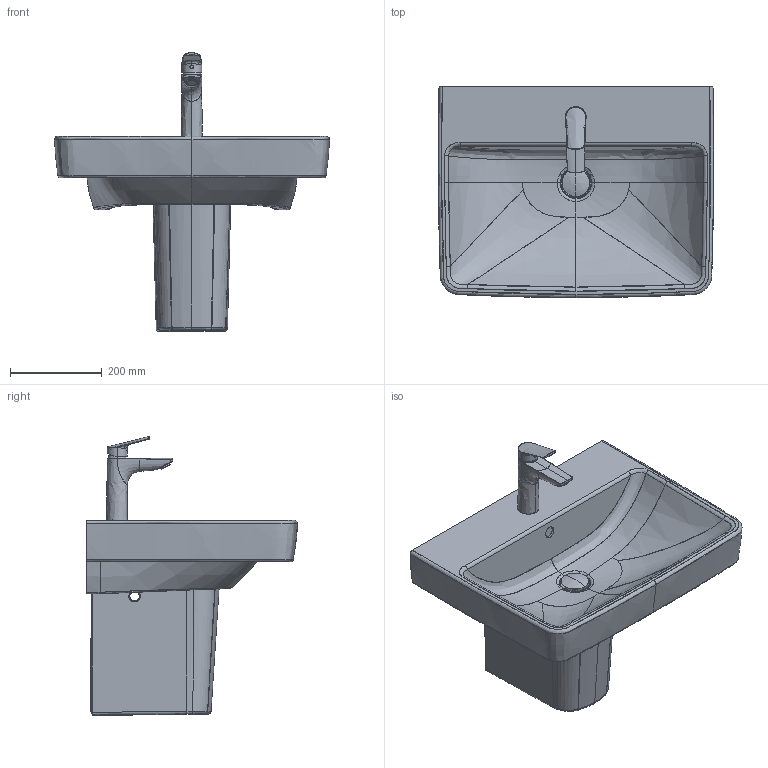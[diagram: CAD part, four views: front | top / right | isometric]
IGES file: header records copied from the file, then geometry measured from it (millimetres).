
Global section: file name: d:\users\matthias.isele\Desktop\Planungsdaten_erstellen\Duravit_No_1\237560\3D\237560_085845.igs; native system: Rhinoceros ( Sep 13 2016 ); preprocessor: Trout Lake IGES 012 Sep 13 2016; date: 210920.124110; units: millimetre
Bounding box: 600.24 x 460.1 x 607.93 mm (x, y, z)
Surface area: 1499832.9 mm2 (no closed solid volume)
Topology: 0 solids, 0 shells, 573 faces, 5577 edges, 5571 vertices
Faces by surface type: bspline 573
